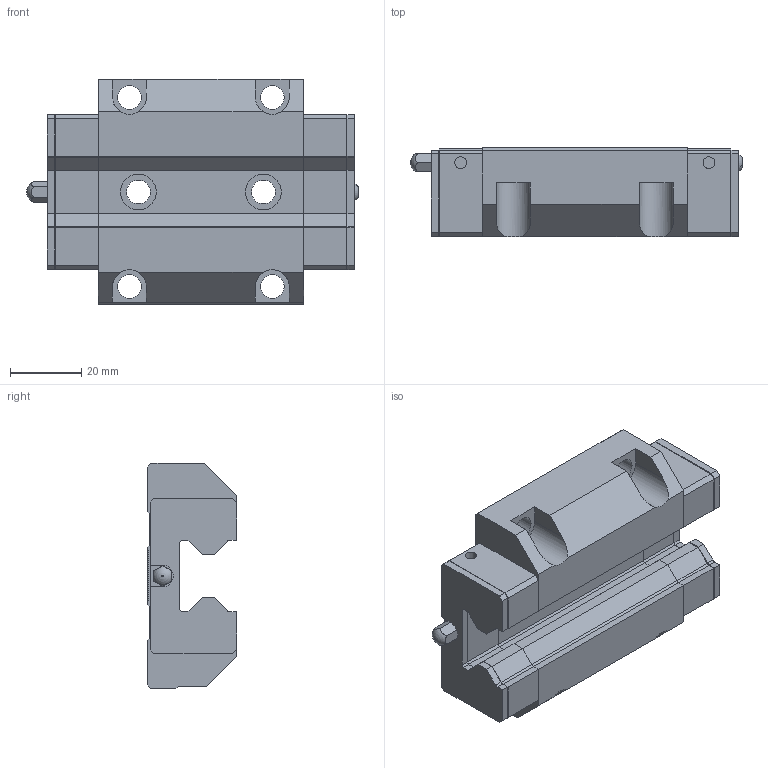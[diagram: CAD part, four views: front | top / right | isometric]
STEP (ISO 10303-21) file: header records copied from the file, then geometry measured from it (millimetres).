
FILE_DESCRIPTION (( 'STEP AP203' ), '1' );
FILE_NAME ('SRW20CC.STEP', '2025-07-11T05:25:56', ( 'Owner' ), ( 'Organization' ), 'SwSTEP 2.0', 'SolidWorks 2020', '' );
FILE_SCHEMA (( 'CONFIG_CONTROL_DESIGN' ));
Length unit declared in the file: millimetre
Products named in the file (1): SRW20CC
Bounding box: 92.96 x 25 x 63 mm (x, y, z)
Volume: 86399.9 mm3; surface area: 27676.3 mm2
Topology: 7 solids, 7 shells, 302 faces, 778 edges, 502 vertices
Faces by surface type: plane 234, cylinder 60, cone 4, sphere 2, torus 2
Entity records: 9127 total; most frequent: CARTESIAN_POINT 1601, ORIENTED_EDGE 1548, DIRECTION 1508, EDGE_CURVE 774, VECTOR 630, LINE 630, VERTEX_POINT 500, AXIS2_PLACEMENT_3D 439
